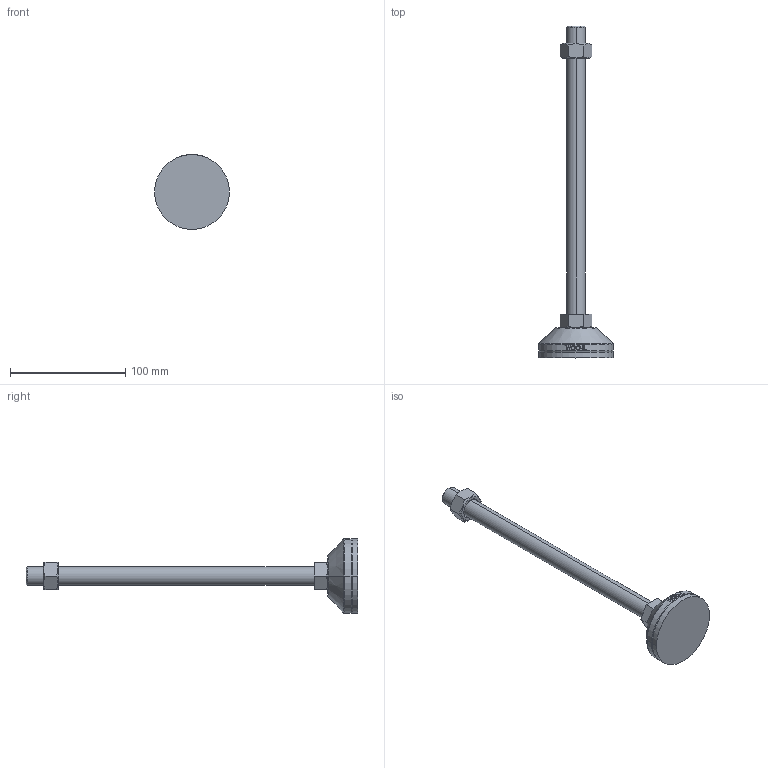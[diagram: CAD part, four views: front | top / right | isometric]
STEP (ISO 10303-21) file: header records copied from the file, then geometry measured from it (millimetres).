
FILE_DESCRIPTION (( 'STEP AP214' ), '1' );
FILE_NAME ('NHNR65-M16-250 (Æò).step', '2021-01-25T06:19:53', ( '' ), ( '' ), 'SwSTEP 2.0', 'SolidWorks 2019', '' );
FILE_SCHEMA (( 'AUTOMOTIVE_DESIGN' ));
Length unit declared in the file: millimetre
Products named in the file (2): NHNR65-M16-250 (ゎ)
Bounding box: 65 x 288 x 65 mm (x, y, z)
Volume: 128501.1 mm3; surface area: 33199.9 mm2
Topology: 4 solids, 4 shells, 100 faces, 229 edges, 146 vertices
Faces by surface type: plane 48, cylinder 16, bspline 16, cone 14, torus 6
Entity records: 4231 total; most frequent: CARTESIAN_POINT 2025, ORIENTED_EDGE 458, DIRECTION 401, EDGE_CURVE 229, AXIS2_PLACEMENT_3D 152, VERTEX_POINT 146, EDGE_LOOP 111, ADVANCED_FACE 100
